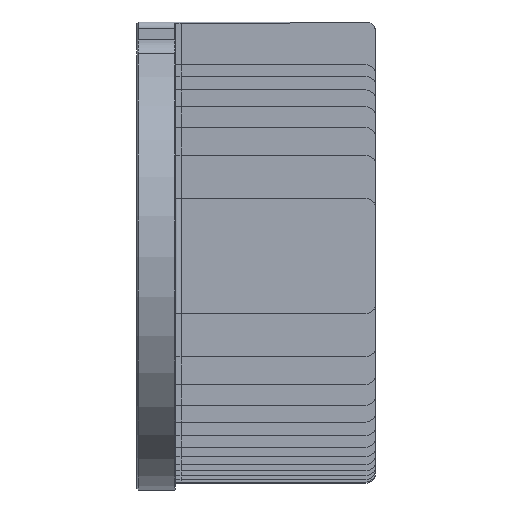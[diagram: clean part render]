
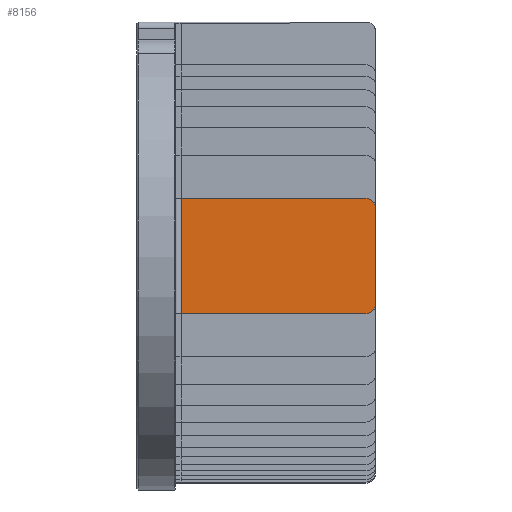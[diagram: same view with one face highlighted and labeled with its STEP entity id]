
A CAD part, left-side view. The second image highlights one B-rep face of the part: STEP entity #8156.
In plain terms, the highlighted planar face has unit normal (-1, -0.004, 0).
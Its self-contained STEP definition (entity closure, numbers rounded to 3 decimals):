
#16=DIRECTION('',(0.,0.,-1.));
#17=VECTOR('',#16,35.722);
#18=CARTESIAN_POINT('',(-68.2,-13.793,95.361));
#19=LINE('',#18,#17);
#84=CARTESIAN_POINT('',(-67.95,-74.,92.361));
#85=CARTESIAN_POINT('',(-67.95,-74.,92.861));
#86=CARTESIAN_POINT('',(-67.951,-73.783,93.644));
#87=CARTESIAN_POINT('',(-67.953,-73.165,94.526));
#88=CARTESIAN_POINT('',(-67.957,-72.283,95.144));
#89=CARTESIAN_POINT('',(-67.96,-71.5,95.361));
#90=CARTESIAN_POINT('',(-67.962,-71.,95.361));
#92=CARTESIAN_POINT('',(-67.962,-71.,59.639));
#93=CARTESIAN_POINT('',(-67.96,-71.5,59.639));
#94=CARTESIAN_POINT('',(-67.957,-72.283,59.856));
#95=CARTESIAN_POINT('',(-67.953,-73.165,60.474));
#96=CARTESIAN_POINT('',(-67.951,-73.783,61.356));
#97=CARTESIAN_POINT('',(-67.95,-74.,62.139));
#98=CARTESIAN_POINT('',(-67.95,-74.,62.639));
#100=DIRECTION('',(-0.004,1.,0.));
#101=VECTOR('',#100,57.208);
#102=CARTESIAN_POINT('',(-67.962,-71.,59.639));
#103=LINE('',#102,#101);
#104=DIRECTION('',(-0.004,1.,0.));
#105=VECTOR('',#104,57.208);
#106=CARTESIAN_POINT('',(-67.962,-71.,95.361));
#107=LINE('',#106,#105);
#328=DIRECTION('',(0.,0.,-1.));
#329=VECTOR('',#328,29.722);
#330=CARTESIAN_POINT('',(-67.95,-74.,92.361));
#331=LINE('',#330,#329);
#6651=CARTESIAN_POINT('',(-68.2,-13.793,
59.639));
#6653=VERTEX_POINT('',#6651);
#6655=CARTESIAN_POINT('',(-68.2,-13.793,
95.361));
#6657=VERTEX_POINT('',#6655);
#7223=VERTEX_POINT('',#84);
#7224=VERTEX_POINT('',#90);
#7290=CARTESIAN_POINT('',(-67.962,-71.,59.639));
#7291=VERTEX_POINT('',#7290);
#7292=VERTEX_POINT('',#98);
#8140=CARTESIAN_POINT('',(-67.95,-74.,160.));
#8141=DIRECTION('',(1.,0.004,0.));
#8142=DIRECTION('',(-0.004,1.,0.));
#8143=AXIS2_PLACEMENT_3D('',#8140,#8141,#8142);
#8144=PLANE('',#8143);
#8145=ORIENTED_EDGE('',*,*,#8130,.F.);
#8147=ORIENTED_EDGE('',*,*,#8146,.T.);
#8149=ORIENTED_EDGE('',*,*,#8148,.F.);
#8150=ORIENTED_EDGE('',*,*,#8084,.T.);
#8151=ORIENTED_EDGE('',*,*,#8051,.F.);
#8153=ORIENTED_EDGE('',*,*,#8152,.F.);
#8154=EDGE_LOOP('',(#8145,#8147,#8149,#8150,#8151,#8153));
#8155=FACE_OUTER_BOUND('',#8154,.F.);
#8156=ADVANCED_FACE('',(#8155),#8144,.F.);
#91=B_SPLINE_CURVE_WITH_KNOTS('',3,(#84,#85,#86,#87,#88,#89,#90),.UNSPECIFIED.,
.F.,.F.,(4,1,1,1,4),(0.,0.25,0.5,0.75,1.),.UNSPECIFIED.);
#99=B_SPLINE_CURVE_WITH_KNOTS('',3,(#92,#93,#94,#95,#96,#97,#98),.UNSPECIFIED.,
.F.,.F.,(4,1,1,1,4),(0.,0.25,0.5,0.75,1.),.UNSPECIFIED.);
#8051=EDGE_CURVE('',#6657,#6653,#19,.T.);
#8084=EDGE_CURVE('',#7291,#6653,#103,.T.);
#8130=EDGE_CURVE('',#7223,#7224,#91,.T.);
#8146=EDGE_CURVE('',#7223,#7292,#331,.T.);
#8148=EDGE_CURVE('',#7291,#7292,#99,.T.);
#8152=EDGE_CURVE('',#7224,#6657,#107,.T.);
